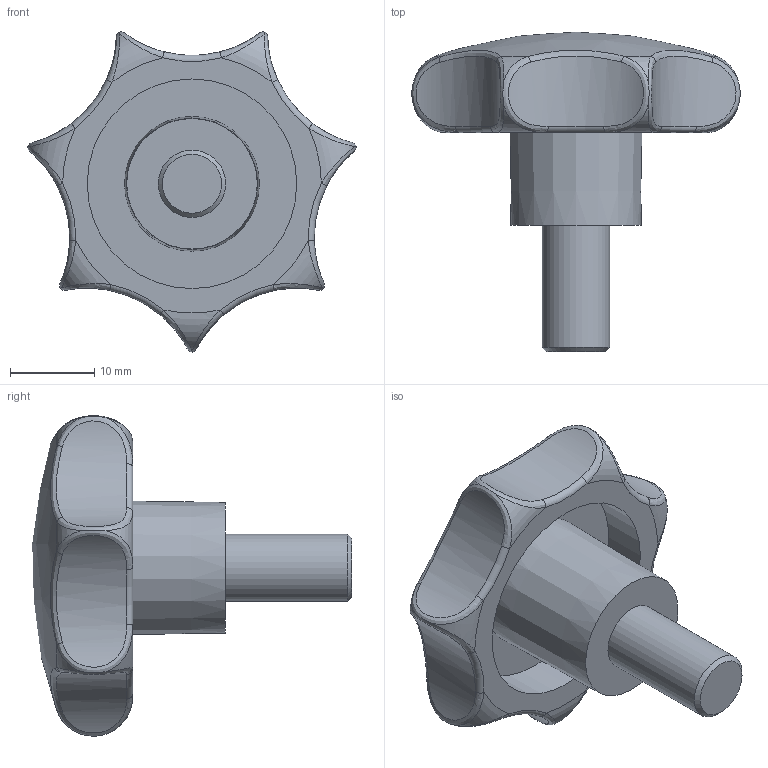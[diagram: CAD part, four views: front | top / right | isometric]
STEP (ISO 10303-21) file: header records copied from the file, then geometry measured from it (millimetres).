
FILE_DESCRIPTION(/* description */ ('HANDWHEEL M8 X 15 MM'),/* implementation_level */ '2;1');
FILE_NAME(/* name */ '\\carryline.intra\privat\users\mathias\Desktop\Tillfälliga filer\300-3260.stp',/* time_stamp */ '2018-11-30T09:56:51+01:00',/* author */ ('MD'),/* organization */ ('CARRYLINE'),/* preprocessor_version */ 'ST-DEVELOPER v17',/* originating_system */ 'Autodesk Inventor 2018',/* authorisation */ '');
FILE_SCHEMA (('AUTOMOTIVE_DESIGN { 1 0 10303 214 3 1 1 }'));
Length unit declared in the file: millimetre
Products named in the file (1): 300-3260
Bounding box: 38.98 x 37.92 x 38.03 mm (x, y, z)
Volume: 10482.8 mm3; surface area: 4381.7 mm2
Topology: 1 solids, 1 shells, 58 faces, 143 edges, 90 vertices
Faces by surface type: torus 21, bspline 21, cylinder 9, plane 4, cone 2, sphere 1
Full cylindrical faces by diameter (mm): 8 x1, 24.873 x1
Entity records: 7392 total; most frequent: CARTESIAN_POINT 6128, ORIENTED_EDGE 286, DIRECTION 220, EDGE_CURVE 143, AXIS2_PLACEMENT_3D 108, VERTEX_POINT 90, CIRCLE 70, B_SPLINE_CURVE_WITH_KNOTS 69
